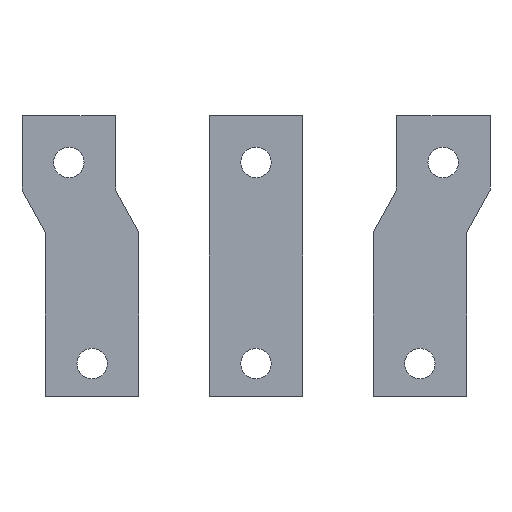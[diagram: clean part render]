
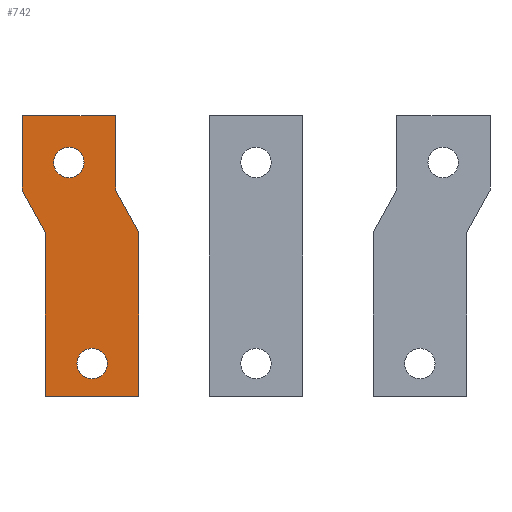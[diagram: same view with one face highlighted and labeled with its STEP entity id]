
A CAD part, front view. The second image highlights one B-rep face of the part: STEP entity #742.
In plain terms, the highlighted planar face has unit normal (0, -1, 0).
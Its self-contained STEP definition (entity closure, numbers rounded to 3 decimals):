
#12 = CARTESIAN_POINT ( 'NONE',  ( 20., 0., -70. ) ) ;
#31 = DIRECTION ( 'NONE',  ( 1., 0., 0. ) ) ;
#39 = DIRECTION ( 'NONE',  ( -0.482, 0., 0.876 ) ) ;
#41 = ORIENTED_EDGE ( 'NONE', *, *, #798, .F. ) ;
#49 = ORIENTED_EDGE ( 'NONE', *, *, #450, .F. ) ;
#56 = CARTESIAN_POINT ( 'NONE',  ( 6.5, 0., -56. ) ) ;
#68 = VECTOR ( 'NONE', #963, 1000. ) ;
#91 = ORIENTED_EDGE ( 'NONE', *, *, #158, .F. ) ;
#104 = ORIENTED_EDGE ( 'NONE', *, *, #727, .F. ) ;
#122 = VERTEX_POINT ( 'NONE', #930 ) ;
#124 = AXIS2_PLACEMENT_3D ( 'NONE', #387, #844, #937 ) ;
#133 = EDGE_LOOP ( 'NONE', ( #476, #815, #104, #308, #91, #49, #934, #732, #41 ) ) ;
#136 = CARTESIAN_POINT ( 'NONE',  ( -20., 0., -70. ) ) ;
#140 = FACE_BOUND ( 'NONE', #667, .T. ) ;
#154 = CARTESIAN_POINT ( 'NONE',  ( 0., 0., 0. ) ) ;
#158 = EDGE_CURVE ( 'NONE', #253, #394, #641, .T. ) ;
#163 = VECTOR ( 'NONE', #39, 1000. ) ;
#171 = DIRECTION ( 'NONE',  ( 1., 0., 0. ) ) ;
#172 = CARTESIAN_POINT ( 'NONE',  ( 10., 0., 18.2 ) ) ;
#173 = VERTEX_POINT ( 'NONE', #256 ) ;
#187 = VECTOR ( 'NONE', #307, 1000. ) ;
#196 = CARTESIAN_POINT ( 'NONE',  ( 0., 0., -56. ) ) ;
#201 = LINE ( 'NONE', #519, #789 ) ;
#203 = ORIENTED_EDGE ( 'NONE', *, *, #245, .F. ) ;
#205 = AXIS2_PLACEMENT_3D ( 'NONE', #154, #314, #375 ) ;
#225 = VERTEX_POINT ( 'NONE', #12 ) ;
#245 = EDGE_CURVE ( 'NONE', #173, #920, #875, .T. ) ;
#253 = VERTEX_POINT ( 'NONE', #785 ) ;
#256 = CARTESIAN_POINT ( 'NONE',  ( -3.5, 0., 30. ) ) ;
#257 = EDGE_CURVE ( 'NONE', #122, #225, #633, .T. ) ;
#292 = EDGE_CURVE ( 'NONE', #394, #942, #707, .T. ) ;
#307 = DIRECTION ( 'NONE',  ( 0., 0., 1. ) ) ;
#308 = ORIENTED_EDGE ( 'NONE', *, *, #292, .F. ) ;
#314 = DIRECTION ( 'NONE',  ( 0., 1., 0. ) ) ;
#316 = VECTOR ( 'NONE', #950, 1000. ) ;
#318 = DIRECTION ( 'NONE',  ( 0., -1., 0. ) ) ;
#321 = CARTESIAN_POINT ( 'NONE',  ( 10., 0., 50. ) ) ;
#325 = DIRECTION ( 'NONE',  ( 1., 0., 0. ) ) ;
#332 = EDGE_CURVE ( 'NONE', #920, #173, #593, .T. ) ;
#345 = VECTOR ( 'NONE', #660, 1000. ) ;
#375 = DIRECTION ( 'NONE',  ( 1., 0., 0. ) ) ;
#380 = CARTESIAN_POINT ( 'NONE',  ( -30., 0., 18.2 ) ) ;
#387 = CARTESIAN_POINT ( 'NONE',  ( 0., 0., -56. ) ) ;
#394 = VERTEX_POINT ( 'NONE', #811 ) ;
#395 = EDGE_CURVE ( 'NONE', #225, #531, #808, .T. ) ;
#419 = CARTESIAN_POINT ( 'NONE',  ( -10., 0., 30. ) ) ;
#420 = VERTEX_POINT ( 'NONE', #743 ) ;
#421 = VECTOR ( 'NONE', #529, 1000. ) ;
#438 = DIRECTION ( 'NONE',  ( 0.482, 0., -0.876 ) ) ;
#446 = CARTESIAN_POINT ( 'NONE',  ( -20., 0., 0. ) ) ;
#450 = EDGE_CURVE ( 'NONE', #554, #253, #647, .T. ) ;
#476 = ORIENTED_EDGE ( 'NONE', *, *, #395, .F. ) ;
#500 = EDGE_LOOP ( 'NONE', ( #806, #203 ) ) ;
#502 = CARTESIAN_POINT ( 'NONE',  ( -6.5, 0., -56. ) ) ;
#508 = DIRECTION ( 'NONE',  ( 0., -1., 0. ) ) ;
#509 = AXIS2_PLACEMENT_3D ( 'NONE', #790, #318, #325 ) ;
#519 = CARTESIAN_POINT ( 'NONE',  ( 10., 0., 18.2 ) ) ;
#529 = DIRECTION ( 'NONE',  ( 0., 0., 1. ) ) ;
#531 = VERTEX_POINT ( 'NONE', #749 ) ;
#549 = PLANE ( 'NONE',  #205 ) ;
#554 = VERTEX_POINT ( 'NONE', #586 ) ;
#578 = LINE ( 'NONE', #446, #163 ) ;
#586 = CARTESIAN_POINT ( 'NONE',  ( -30., 0., 50. ) ) ;
#593 = CIRCLE ( 'NONE', #886, 6.5 ) ;
#600 = CIRCLE ( 'NONE', #124, 6.5 ) ;
#608 = VECTOR ( 'NONE', #171, 1000. ) ;
#625 = CARTESIAN_POINT ( 'NONE',  ( 20., 0., 0. ) ) ;
#633 = LINE ( 'NONE', #625, #68 ) ;
#641 = LINE ( 'NONE', #946, #608 ) ;
#643 = EDGE_CURVE ( 'NONE', #694, #420, #578, .T. ) ;
#647 = LINE ( 'NONE', #986, #653 ) ;
#653 = VECTOR ( 'NONE', #31, 1000. ) ;
#655 = DIRECTION ( 'NONE',  ( 0., -1., 0. ) ) ;
#659 = EDGE_CURVE ( 'NONE', #730, #739, #843, .T. ) ;
#660 = DIRECTION ( 'NONE',  ( -1., 0., 0. ) ) ;
#667 = EDGE_LOOP ( 'NONE', ( #777, #891 ) ) ;
#668 = DIRECTION ( 'NONE',  ( 1., 0., 0. ) ) ;
#681 = LINE ( 'NONE', #136, #421 ) ;
#694 = VERTEX_POINT ( 'NONE', #834 ) ;
#707 = LINE ( 'NONE', #321, #316 ) ;
#727 = EDGE_CURVE ( 'NONE', #942, #122, #201, .T. ) ;
#728 = CARTESIAN_POINT ( 'NONE',  ( 20., 0., -70. ) ) ;
#730 = VERTEX_POINT ( 'NONE', #56 ) ;
#731 = DIRECTION ( 'NONE',  ( -1., 0., 0. ) ) ;
#732 = ORIENTED_EDGE ( 'NONE', *, *, #643, .F. ) ;
#739 = VERTEX_POINT ( 'NONE', #502 ) ;
#742 = ADVANCED_FACE ( 'NONE', ( #140, #859, #932 ), #549, .F. ) ;
#743 = CARTESIAN_POINT ( 'NONE',  ( -30., 0., 18.2 ) ) ;
#749 = CARTESIAN_POINT ( 'NONE',  ( -20., 0., -70. ) ) ;
#762 = EDGE_CURVE ( 'NONE', #739, #730, #600, .T. ) ;
#777 = ORIENTED_EDGE ( 'NONE', *, *, #762, .F. ) ;
#785 = CARTESIAN_POINT ( 'NONE',  ( -10., 0., 50. ) ) ;
#789 = VECTOR ( 'NONE', #438, 1000. ) ;
#790 = CARTESIAN_POINT ( 'NONE',  ( -10., 0., 30. ) ) ;
#798 = EDGE_CURVE ( 'NONE', #531, #694, #681, .T. ) ;
#806 = ORIENTED_EDGE ( 'NONE', *, *, #332, .F. ) ;
#808 = LINE ( 'NONE', #728, #345 ) ;
#811 = CARTESIAN_POINT ( 'NONE',  ( 10., 0., 50. ) ) ;
#813 = EDGE_CURVE ( 'NONE', #420, #554, #854, .T. ) ;
#815 = ORIENTED_EDGE ( 'NONE', *, *, #257, .F. ) ;
#834 = CARTESIAN_POINT ( 'NONE',  ( -20., 0., 0. ) ) ;
#843 = CIRCLE ( 'NONE', #877, 6.5 ) ;
#844 = DIRECTION ( 'NONE',  ( 0., -1., 0. ) ) ;
#854 = LINE ( 'NONE', #380, #187 ) ;
#859 = FACE_BOUND ( 'NONE', #500, .T. ) ;
#874 = CARTESIAN_POINT ( 'NONE',  ( -16.5, 0., 30. ) ) ;
#875 = CIRCLE ( 'NONE', #509, 6.5 ) ;
#877 = AXIS2_PLACEMENT_3D ( 'NONE', #196, #655, #668 ) ;
#886 = AXIS2_PLACEMENT_3D ( 'NONE', #419, #508, #731 ) ;
#891 = ORIENTED_EDGE ( 'NONE', *, *, #659, .F. ) ;
#920 = VERTEX_POINT ( 'NONE', #874 ) ;
#930 = CARTESIAN_POINT ( 'NONE',  ( 20., 0., 0. ) ) ;
#932 = FACE_OUTER_BOUND ( 'NONE', #133, .T. ) ;
#934 = ORIENTED_EDGE ( 'NONE', *, *, #813, .F. ) ;
#937 = DIRECTION ( 'NONE',  ( -1., 0., 0. ) ) ;
#942 = VERTEX_POINT ( 'NONE', #172 ) ;
#946 = CARTESIAN_POINT ( 'NONE',  ( -10., 0., 50. ) ) ;
#950 = DIRECTION ( 'NONE',  ( 0., 0., -1. ) ) ;
#963 = DIRECTION ( 'NONE',  ( 0., 0., -1. ) ) ;
#986 = CARTESIAN_POINT ( 'NONE',  ( -30., 0., 50. ) ) ;
